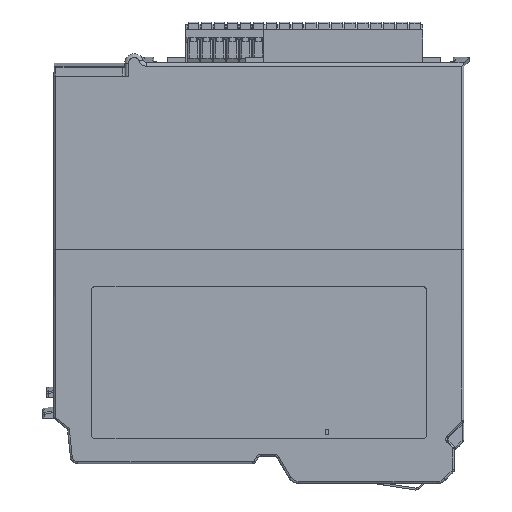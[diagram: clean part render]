
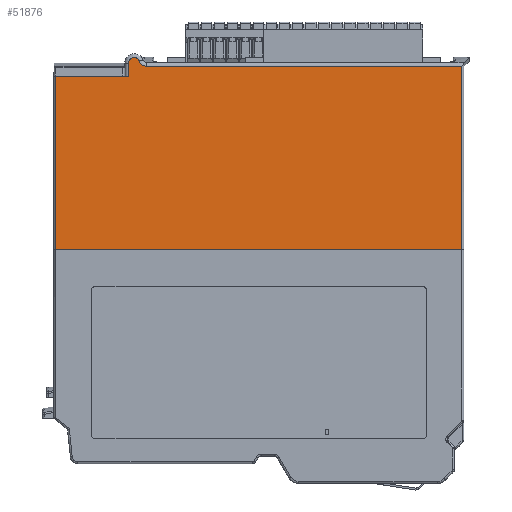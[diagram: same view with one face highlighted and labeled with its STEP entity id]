
A CAD part, left-side view. The second image highlights one B-rep face of the part: STEP entity #51876.
In plain terms, the highlighted planar face has unit normal (-1, 0, 0).
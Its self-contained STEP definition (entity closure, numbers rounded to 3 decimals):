
#3278 = ORIENTED_EDGE ( 'NONE', *, *, #22009, .F. ) ;
#3279 = ORIENTED_EDGE ( 'NONE', *, *, #22003, .F. ) ;
#3280 = ORIENTED_EDGE ( 'NONE', *, *, #21998, .F. ) ;
#3281 = ORIENTED_EDGE ( 'NONE', *, *, #21986, .F. ) ;
#3282 = ORIENTED_EDGE ( 'NONE', *, *, #22062, .F. ) ;
#3283 = ORIENTED_EDGE ( 'NONE', *, *, #21977, .F. ) ;
#3284 = ORIENTED_EDGE ( 'NONE', *, *, #22066, .T. ) ;
#3285 = ORIENTED_EDGE ( 'NONE', *, *, #22020, .F. ) ;
#21977 = EDGE_CURVE ( 'NONE', #188225, #188232, #37330, .T. ) ;
#21986 = EDGE_CURVE ( 'NONE', #188235, #188236, #37365, .T. ) ;
#21998 = EDGE_CURVE ( 'NONE', #188236, #188237, #146003, .T. ) ;
#22003 = EDGE_CURVE ( 'NONE', #188237, #188230, #45028, .T. ) ;
#22009 = EDGE_CURVE ( 'NONE', #188230, #188238, #37433, .T. ) ;
#22020 = EDGE_CURVE ( 'NONE', #188238, #188234, #37470, .T. ) ;
#22062 = EDGE_CURVE ( 'NONE', #188232, #188235, #37578, .T. ) ;
#22066 = EDGE_CURVE ( 'NONE', #188225, #188234, #37585, .T. ) ;
#37308 = CARTESIAN_POINT ( 'NONE',  ( -44.456, 60.955, 27.5 ) ) ;
#37330 = LINE ( 'NONE', #37308, #156422 ) ;
#37339 = DIRECTION ( 'NONE',  ( 0., 0., 1. ) ) ;
#37342 = CARTESIAN_POINT ( 'NONE',  ( -44.456, 41.455, 27.5 ) ) ;
#37365 = LINE ( 'NONE', #37342, #156207 ) ;
#37373 = CARTESIAN_POINT ( 'NONE',  ( -44.456, 41.455, 29.694 ) ) ;
#37375 = DIRECTION ( 'NONE',  ( 0., 0., 1. ) ) ;
#37387 = CARTESIAN_POINT ( 'NONE',  ( -44.456, 41.455, 27.5 ) ) ;
#37405 = CARTESIAN_POINT ( 'NONE',  ( -44.456, 39.294, 30.074 ) ) ;
#37407 = CARTESIAN_POINT ( 'NONE',  ( -44.456, 38.545, 28.012 ) ) ;
#37409 = CARTESIAN_POINT ( 'NONE',  ( -44.456, 38.545, 28.012 ) ) ;
#37414 = CARTESIAN_POINT ( 'NONE',  ( -44.456, 38.404, 27.625 ) ) ;
#37425 = CARTESIAN_POINT ( 'NONE',  ( -44.456, 38.143, 27.28 ) ) ;
#37427 = CARTESIAN_POINT ( 'NONE',  ( -44.456, 37.468, 26.799 ) ) ;
#37429 = CARTESIAN_POINT ( 'NONE',  ( -44.456, 37.059, 26.666 ) ) ;
#37431 = CARTESIAN_POINT ( 'NONE',  ( -44.456, 36.644, 26.666 ) ) ;
#37433 = LINE ( 'NONE', #37440, #156172 ) ;
#37440 = CARTESIAN_POINT ( 'NONE',  ( -44.456, -48.545, 26.666 ) ) ;
#37445 = DIRECTION ( 'NONE',  ( 0., -1., 0. ) ) ;
#37470 = LINE ( 'NONE', #37484, #157444 ) ;
#37484 = CARTESIAN_POINT ( 'NONE',  ( -44.456, -48.045, 27.5 ) ) ;
#37489 = DIRECTION ( 'NONE',  ( 0., 0., -1. ) ) ;
#37578 = LINE ( 'NONE', #37589, #146157 ) ;
#37583 = CARTESIAN_POINT ( 'NONE',  ( -44.456, 61.813, -22.5 ) ) ;
#37585 = LINE ( 'NONE', #37583, #144756 ) ;
#37589 = CARTESIAN_POINT ( 'NONE',  ( -44.456, 42.455, 24. ) ) ;
#37593 = DIRECTION ( 'NONE',  ( 0., -1., 0. ) ) ;
#37598 = DIRECTION ( 'NONE',  ( 0., -1., 0. ) ) ;
#45028 = B_SPLINE_CURVE_WITH_KNOTS ( 'NONE', 3,
 ( #37409, #37414, #37425, #37427, #37429, #37431 ),
 .UNSPECIFIED., .F., .F.,
 ( 4, 2, 4 ),
 ( 0., 0.5, 1. ),
 .UNSPECIFIED. ) ;
#51876 = ADVANCED_FACE ( 'NONE', ( #125854 ), #125818, .F. ) ;
#109873 = AXIS2_PLACEMENT_3D ( 'NONE', #125884, #125886, #125888 ) ;
#125818 = PLANE ( 'NONE',  #109873 ) ;
#125854 = FACE_OUTER_BOUND ( 'NONE', #179215, .T. ) ;
#125884 = CARTESIAN_POINT ( 'NONE',  ( -44.456, -48.545, 27.5 ) ) ;
#125886 = DIRECTION ( 'NONE',  ( 1., 0., 0. ) ) ;
#125888 = DIRECTION ( 'NONE',  ( 0., 0., -1. ) ) ;
#138781 = CARTESIAN_POINT ( 'NONE',  ( -44.456, 60.955, -22.5 ) ) ;
#138798 = CARTESIAN_POINT ( 'NONE',  ( -44.456, 36.644, 26.666 ) ) ;
#138804 = CARTESIAN_POINT ( 'NONE',  ( -44.456, 60.955, 24. ) ) ;
#138810 = CARTESIAN_POINT ( 'NONE',  ( -44.456, -48.045, -22.5 ) ) ;
#138813 = CARTESIAN_POINT ( 'NONE',  ( -44.456, 41.455, 24. ) ) ;
#138816 = CARTESIAN_POINT ( 'NONE',  ( -44.456, 41.455, 27.5 ) ) ;
#138820 = CARTESIAN_POINT ( 'NONE',  ( -44.456, 38.545, 28.012 ) ) ;
#138822 = CARTESIAN_POINT ( 'NONE',  ( -44.456, -48.045, 26.666 ) ) ;
#144756 = VECTOR ( 'NONE', #37598, 1000. ) ;
#146003 =( BOUNDED_CURVE ( )  B_SPLINE_CURVE ( 3, ( #37387, #37373, #37405, #37407 ),
 .UNSPECIFIED., .F., .T. ) 
 B_SPLINE_CURVE_WITH_KNOTS ( ( 4, 4 ),
 ( 0., 1. ),
 .UNSPECIFIED. ) 
 CURVE ( )  GEOMETRIC_REPRESENTATION_ITEM ( )  RATIONAL_B_SPLINE_CURVE ( ( 1., 0.449, 0.449, 1. ) ) 
 REPRESENTATION_ITEM ( '' )  );
#146157 = VECTOR ( 'NONE', #37593, 1000. ) ;
#156172 = VECTOR ( 'NONE', #37445, 1000. ) ;
#156207 = VECTOR ( 'NONE', #37375, 1000. ) ;
#156422 = VECTOR ( 'NONE', #37339, 1000. ) ;
#157444 = VECTOR ( 'NONE', #37489, 1000. ) ;
#179215 = EDGE_LOOP ( 'NONE', ( #3278, #3279, #3280, #3281, #3282, #3283, #3284, #3285 ) ) ;
#188225 = VERTEX_POINT ( 'NONE', #138781 ) ;
#188230 = VERTEX_POINT ( 'NONE', #138798 ) ;
#188232 = VERTEX_POINT ( 'NONE', #138804 ) ;
#188234 = VERTEX_POINT ( 'NONE', #138810 ) ;
#188235 = VERTEX_POINT ( 'NONE', #138813 ) ;
#188236 = VERTEX_POINT ( 'NONE', #138816 ) ;
#188237 = VERTEX_POINT ( 'NONE', #138820 ) ;
#188238 = VERTEX_POINT ( 'NONE', #138822 ) ;
